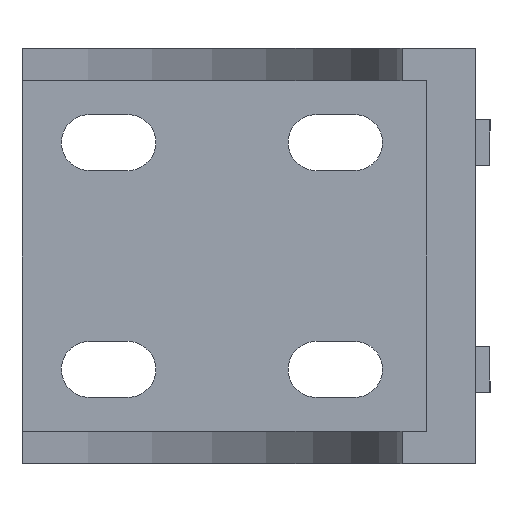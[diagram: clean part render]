
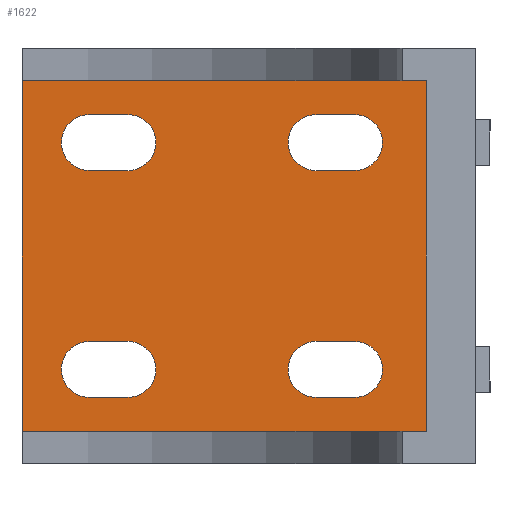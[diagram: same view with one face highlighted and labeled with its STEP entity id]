
A CAD part, left-side view. The second image highlights one B-rep face of the part: STEP entity #1622.
In plain terms, the highlighted planar face has unit normal (-1, 0, 0).
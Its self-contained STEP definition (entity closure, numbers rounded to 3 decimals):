
#36=CIRCLE('',#1713,3.7);
#38=CIRCLE('',#1717,3.7);
#40=CIRCLE('',#1721,3.7);
#42=CIRCLE('',#1725,3.7);
#45=CIRCLE('',#1730,3.7);
#47=CIRCLE('',#1734,3.7);
#49=CIRCLE('',#1738,3.7);
#51=CIRCLE('',#1742,3.7);
#406=ORIENTED_EDGE('',*,*,#689,.T.);
#407=ORIENTED_EDGE('',*,*,#697,.T.);
#408=ORIENTED_EDGE('',*,*,#695,.T.);
#409=ORIENTED_EDGE('',*,*,#692,.T.);
#410=ORIENTED_EDGE('',*,*,#735,.T.);
#411=ORIENTED_EDGE('',*,*,#719,.F.);
#412=ORIENTED_EDGE('',*,*,#738,.F.);
#413=ORIENTED_EDGE('',*,*,#713,.F.);
#414=ORIENTED_EDGE('',*,*,#701,.T.);
#415=ORIENTED_EDGE('',*,*,#709,.T.);
#416=ORIENTED_EDGE('',*,*,#707,.T.);
#417=ORIENTED_EDGE('',*,*,#704,.T.);
#418=ORIENTED_EDGE('',*,*,#684,.F.);
#419=ORIENTED_EDGE('',*,*,#681,.F.);
#420=ORIENTED_EDGE('',*,*,#678,.F.);
#421=ORIENTED_EDGE('',*,*,#674,.F.);
#422=ORIENTED_EDGE('',*,*,#672,.F.);
#423=ORIENTED_EDGE('',*,*,#669,.F.);
#424=ORIENTED_EDGE('',*,*,#666,.F.);
#425=ORIENTED_EDGE('',*,*,#662,.F.);
#662=EDGE_CURVE('',#836,#837,#1016,.T.);
#666=EDGE_CURVE('',#837,#840,#36,.T.);
#669=EDGE_CURVE('',#840,#842,#1021,.T.);
#672=EDGE_CURVE('',#842,#836,#38,.T.);
#674=EDGE_CURVE('',#844,#845,#1024,.T.);
#678=EDGE_CURVE('',#845,#848,#40,.T.);
#681=EDGE_CURVE('',#848,#850,#1029,.T.);
#684=EDGE_CURVE('',#850,#844,#42,.T.);
#689=EDGE_CURVE('',#853,#855,#1035,.T.);
#692=EDGE_CURVE('',#857,#853,#45,.T.);
#695=EDGE_CURVE('',#859,#857,#1039,.T.);
#697=EDGE_CURVE('',#855,#859,#47,.T.);
#701=EDGE_CURVE('',#861,#863,#1043,.T.);
#704=EDGE_CURVE('',#865,#861,#49,.T.);
#707=EDGE_CURVE('',#867,#865,#1047,.T.);
#709=EDGE_CURVE('',#863,#867,#51,.T.);
#713=EDGE_CURVE('',#871,#872,#1050,.T.);
#719=EDGE_CURVE('',#877,#873,#1055,.T.);
#735=EDGE_CURVE('',#871,#873,#1069,.T.);
#738=EDGE_CURVE('',#872,#877,#1072,.T.);
#836=VERTEX_POINT('',#2486);
#837=VERTEX_POINT('',#2487);
#840=VERTEX_POINT('',#2495);
#842=VERTEX_POINT('',#2501);
#844=VERTEX_POINT('',#2510);
#845=VERTEX_POINT('',#2511);
#848=VERTEX_POINT('',#2519);
#850=VERTEX_POINT('',#2525);
#853=VERTEX_POINT('',#2535);
#855=VERTEX_POINT('',#2539);
#857=VERTEX_POINT('',#2544);
#859=VERTEX_POINT('',#2550);
#861=VERTEX_POINT('',#2559);
#863=VERTEX_POINT('',#2563);
#865=VERTEX_POINT('',#2568);
#867=VERTEX_POINT('',#2574);
#871=VERTEX_POINT('',#2587);
#872=VERTEX_POINT('',#2589);
#873=VERTEX_POINT('',#2593);
#877=VERTEX_POINT('',#2600);
#1016=LINE('',#2485,#1202);
#1021=LINE('',#2500,#1207);
#1024=LINE('',#2509,#1210);
#1029=LINE('',#2524,#1215);
#1035=LINE('',#2540,#1221);
#1039=LINE('',#2552,#1225);
#1043=LINE('',#2564,#1229);
#1047=LINE('',#2576,#1233);
#1050=LINE('',#2588,#1236);
#1055=LINE('',#2601,#1241);
#1069=LINE('',#2632,#1255);
#1072=LINE('',#2637,#1258);
#1202=VECTOR('',#2035,1000.);
#1207=VECTOR('',#2048,1000.);
#1210=VECTOR('',#2059,1000.);
#1215=VECTOR('',#2072,1000.);
#1221=VECTOR('',#2086,1000.);
#1225=VECTOR('',#2098,1000.);
#1229=VECTOR('',#2110,1000.);
#1233=VECTOR('',#2122,1000.);
#1236=VECTOR('',#2135,1000.);
#1241=VECTOR('',#2144,1000.);
#1255=VECTOR('',#2172,1000.);
#1258=VECTOR('',#2179,1000.);
#1340=EDGE_LOOP('',(#406,#407,#408,#409));
#1341=EDGE_LOOP('',(#410,#411,#412,#413));
#1342=EDGE_LOOP('',(#414,#415,#416,#417));
#1343=EDGE_LOOP('',(#418,#419,#420,#421));
#1344=EDGE_LOOP('',(#422,#423,#424,#425));
#1448=FACE_BOUND('',#1340,.T.);
#1449=FACE_BOUND('',#1341,.T.);
#1450=FACE_BOUND('',#1342,.T.);
#1451=FACE_BOUND('',#1343,.T.);
#1452=FACE_BOUND('',#1344,.T.);
#1538=PLANE('',#1755);
#1622=ADVANCED_FACE('',(#1448,#1449,#1450,#1451,#1452),#1538,.T.);
#1713=AXIS2_PLACEMENT_3D('',#2494,#2041,#2042);
#1717=AXIS2_PLACEMENT_3D('',#2506,#2053,#2054);
#1721=AXIS2_PLACEMENT_3D('',#2518,#2065,#2066);
#1725=AXIS2_PLACEMENT_3D('',#2530,#2077,#2078);
#1730=AXIS2_PLACEMENT_3D('',#2546,#2092,#2093);
#1734=AXIS2_PLACEMENT_3D('',#2555,#2103,#2104);
#1738=AXIS2_PLACEMENT_3D('',#2570,#2116,#2117);
#1742=AXIS2_PLACEMENT_3D('',#2579,#2127,#2128);
#1755=AXIS2_PLACEMENT_3D('',#2636,#2177,#2178);
#2035=DIRECTION('',(0.,-1.,0.));
#2041=DIRECTION('',(-1.,0.,0.));
#2042=DIRECTION('',(0.,0.,1.));
#2048=DIRECTION('',(0.,1.,0.));
#2053=DIRECTION('',(-1.,0.,0.));
#2054=DIRECTION('',(0.,0.,1.));
#2059=DIRECTION('',(0.,-1.,0.));
#2065=DIRECTION('',(-1.,0.,0.));
#2066=DIRECTION('',(0.,0.,1.));
#2072=DIRECTION('',(0.,1.,0.));
#2077=DIRECTION('',(-1.,0.,0.));
#2078=DIRECTION('',(0.,0.,1.));
#2086=DIRECTION('',(0.,1.,0.));
#2092=DIRECTION('',(1.,0.,0.));
#2093=DIRECTION('',(0.,0.,1.));
#2098=DIRECTION('',(0.,-1.,0.));
#2103=DIRECTION('',(1.,0.,0.));
#2104=DIRECTION('',(0.,0.,1.));
#2110=DIRECTION('',(0.,1.,0.));
#2116=DIRECTION('',(1.,0.,0.));
#2117=DIRECTION('',(0.,0.,1.));
#2122=DIRECTION('',(0.,-1.,0.));
#2127=DIRECTION('',(1.,0.,0.));
#2128=DIRECTION('',(0.,0.,1.));
#2135=DIRECTION('',(0.,-1.,0.));
#2144=DIRECTION('',(0.,1.,0.));
#2172=DIRECTION('',(0.,0.,-1.));
#2177=DIRECTION('',(-1.,0.,0.));
#2178=DIRECTION('',(0.,0.,1.));
#2179=DIRECTION('',(0.,0.,-1.));
#2485=CARTESIAN_POINT('',(53.5,0.,11.3));
#2486=CARTESIAN_POINT('',(53.5,21.1,11.3));
#2487=CARTESIAN_POINT('',(53.5,16.,11.3));
#2494=CARTESIAN_POINT('',(53.5,16.,15.));
#2495=CARTESIAN_POINT('',(53.5,16.,18.7));
#2500=CARTESIAN_POINT('',(53.5,0.,18.7));
#2501=CARTESIAN_POINT('',(53.5,21.1,18.7));
#2506=CARTESIAN_POINT('',(53.5,21.1,15.));
#2509=CARTESIAN_POINT('',(53.5,0.,11.3));
#2510=CARTESIAN_POINT('',(53.5,51.1,11.3));
#2511=CARTESIAN_POINT('',(53.5,46.,11.3));
#2518=CARTESIAN_POINT('',(53.5,46.,15.));
#2519=CARTESIAN_POINT('',(53.5,46.,18.7));
#2524=CARTESIAN_POINT('',(53.5,0.,18.7));
#2525=CARTESIAN_POINT('',(53.5,51.1,18.7));
#2530=CARTESIAN_POINT('',(53.5,51.1,15.));
#2535=CARTESIAN_POINT('',(53.5,16.,-18.7));
#2539=CARTESIAN_POINT('',(53.5,21.1,-18.7));
#2540=CARTESIAN_POINT('',(53.5,0.,-18.7));
#2544=CARTESIAN_POINT('',(53.5,16.,-11.3));
#2546=CARTESIAN_POINT('',(53.5,16.,-15.));
#2550=CARTESIAN_POINT('',(53.5,21.1,-11.3));
#2552=CARTESIAN_POINT('',(53.5,0.,-11.3));
#2555=CARTESIAN_POINT('',(53.5,21.1,-15.));
#2559=CARTESIAN_POINT('',(53.5,46.,-18.7));
#2563=CARTESIAN_POINT('',(53.5,51.1,-18.7));
#2564=CARTESIAN_POINT('',(53.5,0.,-18.7));
#2568=CARTESIAN_POINT('',(53.5,46.,-11.3));
#2570=CARTESIAN_POINT('',(53.5,46.,-15.));
#2574=CARTESIAN_POINT('',(53.5,51.1,-11.3));
#2576=CARTESIAN_POINT('',(53.5,0.,-11.3));
#2579=CARTESIAN_POINT('',(53.5,51.1,-15.));
#2587=CARTESIAN_POINT('',(53.5,60.,23.2));
#2588=CARTESIAN_POINT('',(53.5,63.09,23.2));
#2589=CARTESIAN_POINT('',(53.5,6.5,23.2));
#2593=CARTESIAN_POINT('',(53.5,60.,-23.2));
#2600=CARTESIAN_POINT('',(53.5,6.5,-23.2));
#2601=CARTESIAN_POINT('',(53.5,63.09,-23.2));
#2632=CARTESIAN_POINT('',(53.5,60.,27.5));
#2636=CARTESIAN_POINT('',(53.5,0.,0.));
#2637=CARTESIAN_POINT('',(53.5,6.5,-23.2));
